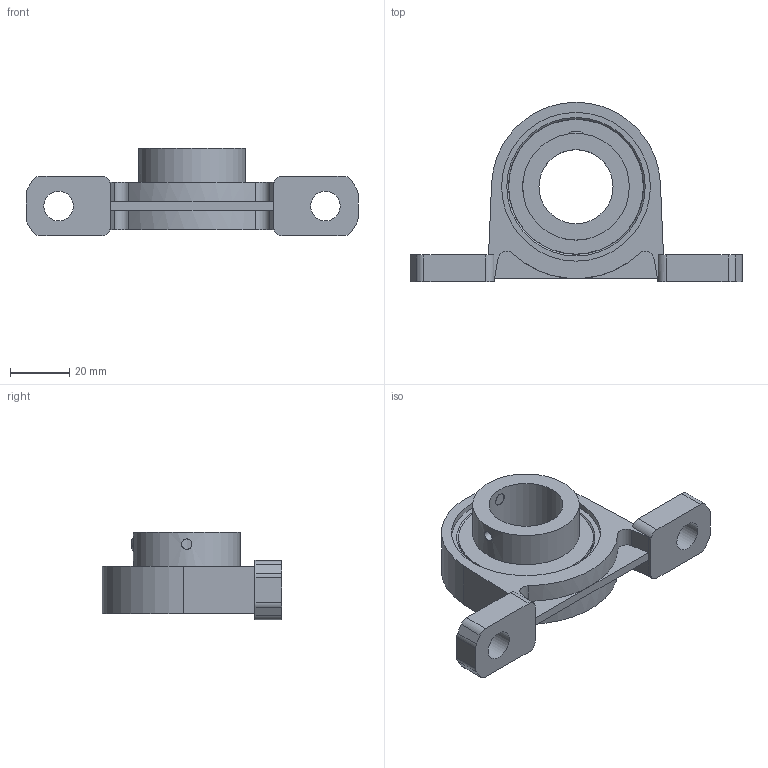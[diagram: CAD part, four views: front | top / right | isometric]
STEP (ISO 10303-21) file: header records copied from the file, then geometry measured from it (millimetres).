
FILE_DESCRIPTION((''),'2;1');
FILE_NAME('\\Ts-tgl068\J-Cad-D-BASE\00.3DCADデータ作成フォルダ\11.エコシリーズ\MUSP000\MUSP005.stp','2014-11-12T09:19:29',('btec_1106_2'),(''),'Autodesk Inventor 2012','Autodesk Inventor 2012','');
FILE_SCHEMA(('AUTOMOTIVE_DESIGN { 1 0 10303 214 1 1 1 1 }'));
Length unit declared in the file: millimetre
Products named in the file (3): MUSP000; SP005; U005
Assembly tree (2 placements, depth 2):
  MUSP000
    SP005
    U005
Bounding box: 112 x 60.5 x 29.5 mm (x, y, z)
Volume: 47435.8 mm3; surface area: 20243.2 mm2
Topology: 2 solids, 2 shells, 80 faces, 201 edges, 130 vertices
Faces by surface type: plane 44, cylinder 31, cone 3, sphere 2
Full cylindrical faces by diameter (mm): 3.5 x1, 10 x2, 25 x1, 31.7 x1, 36 x1, 50.2 x2
Entity records: 2511 total; most frequent: CARTESIAN_POINT 529, DIRECTION 414, ORIENTED_EDGE 364, EDGE_CURVE 182, AXIS2_PLACEMENT_3D 154, VERTEX_POINT 126, EDGE_LOOP 110, VECTOR 106
